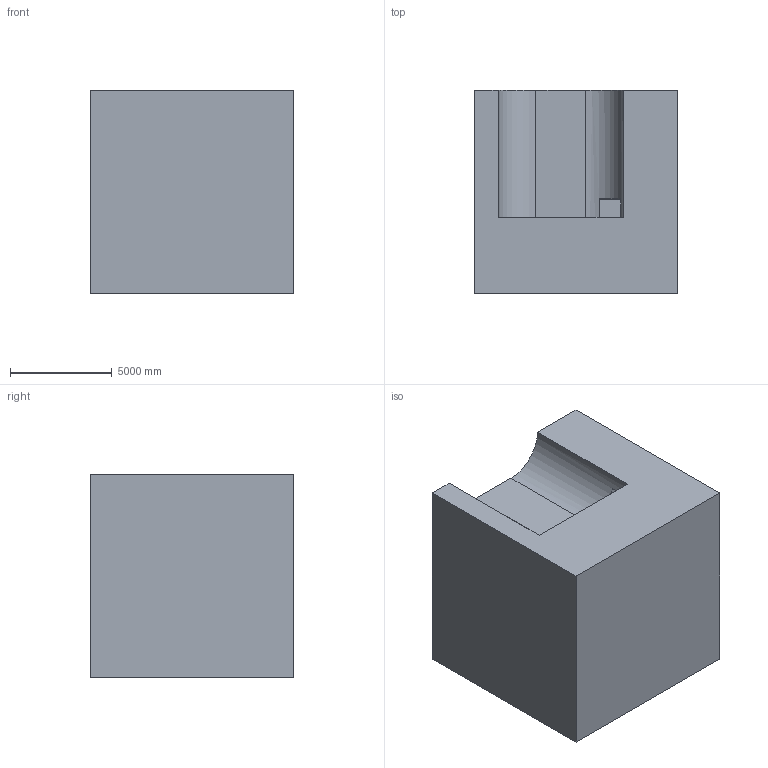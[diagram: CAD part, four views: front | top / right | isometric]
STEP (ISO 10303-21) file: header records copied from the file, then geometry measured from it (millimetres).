
FILE_DESCRIPTION (( 'STEP AP203' ), '1' );
FILE_NAME ('102.STEP', '2022-09-05T15:32:12', ( 'user' ), ( '' ), 'SwSTEP 2.0', 'SolidWorks 2021', '' );
FILE_SCHEMA (( 'CONFIG_CONTROL_DESIGN' ));
Length unit declared in the file: centimetre
Products named in the file (1): 102
Bounding box: 10000 x 10000 x 10000 mm (x, y, z)
Volume: 889635166225.8 mm3; surface area: 688821737.3 mm2
Topology: 1 solids, 1 shells, 15 faces, 42 edges, 28 vertices
Faces by surface type: plane 13, cylinder 2
Entity records: 563 total; most frequent: CARTESIAN_POINT 86, ORIENTED_EDGE 84, DIRECTION 80, EDGE_CURVE 42, LINE 36, VECTOR 36, VERTEX_POINT 28, AXIS2_PLACEMENT_3D 22
